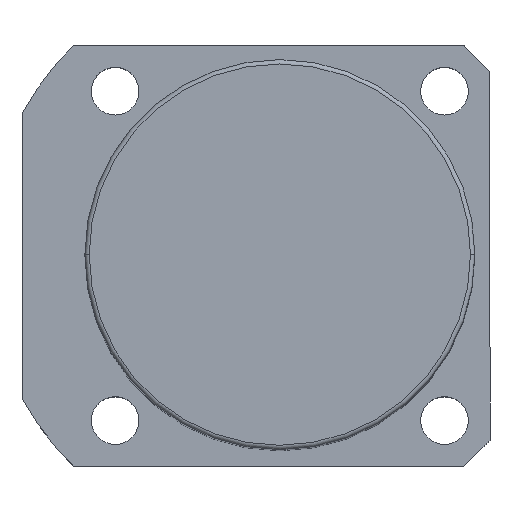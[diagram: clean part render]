
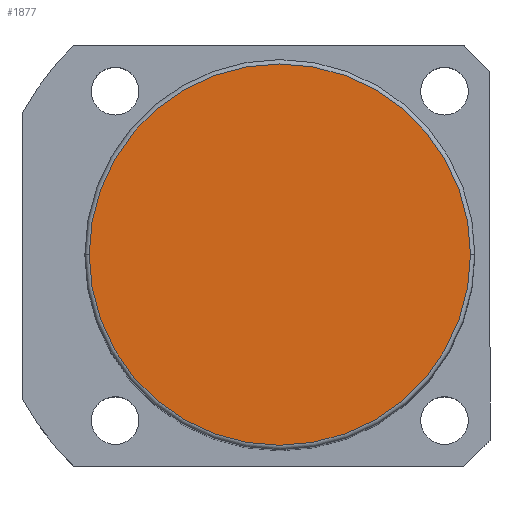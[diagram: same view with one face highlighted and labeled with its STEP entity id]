
A CAD part, top view. The second image highlights one B-rep face of the part: STEP entity #1877.
In plain terms, the highlighted planar face has unit normal (0, 0, 1).
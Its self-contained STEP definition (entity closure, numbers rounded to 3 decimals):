
#10 = ORIENTED_EDGE ( 'NONE', *, *, #1059, .T. ) ;
#18 = VERTEX_POINT ( 'NONE', #1840 ) ;
#71 = DIRECTION ( 'NONE',  ( 0., 0., 1. ) ) ;
#199 = EDGE_LOOP ( 'NONE', ( #10, #1482 ) ) ;
#205 = CARTESIAN_POINT ( 'NONE',  ( 0., 0., 181.5 ) ) ;
#624 = AXIS2_PLACEMENT_3D ( 'NONE', #779, #71, #1971 ) ;
#658 = VERTEX_POINT ( 'NONE', #1951 ) ;
#737 = EDGE_CURVE ( 'NONE', #18, #658, #1335, .T. ) ;
#779 = CARTESIAN_POINT ( 'NONE',  ( 0., 0., 181.5 ) ) ;
#856 = DIRECTION ( 'NONE',  ( 0., 0., 1. ) ) ;
#893 = DIRECTION ( 'NONE',  ( 1., 0., 0. ) ) ;
#941 = FACE_OUTER_BOUND ( 'NONE', #199, .T. ) ;
#1059 = EDGE_CURVE ( 'NONE', #658, #18, #1745, .T. ) ;
#1205 = DIRECTION ( 'NONE',  ( 0., 0., 1. ) ) ;
#1335 = CIRCLE ( 'NONE', #624, 44. ) ;
#1482 = ORIENTED_EDGE ( 'NONE', *, *, #737, .T. ) ;
#1568 = PLANE ( 'NONE',  #1929 ) ;
#1691 = CARTESIAN_POINT ( 'NONE',  ( 0., 0., 181.5 ) ) ;
#1729 = AXIS2_PLACEMENT_3D ( 'NONE', #1691, #856, #2217 ) ;
#1745 = CIRCLE ( 'NONE', #1729, 44. ) ;
#1840 = CARTESIAN_POINT ( 'NONE',  ( -44., 0., 181.5 ) ) ;
#1877 = ADVANCED_FACE ( 'NONE', ( #941 ), #1568, .T. ) ;
#1929 = AXIS2_PLACEMENT_3D ( 'NONE', #205, #1205, #893 ) ;
#1951 = CARTESIAN_POINT ( 'NONE',  ( 44., 0., 181.5 ) ) ;
#1971 = DIRECTION ( 'NONE',  ( 1., 0., 0. ) ) ;
#2217 = DIRECTION ( 'NONE',  ( 1., 0., 0. ) ) ;
